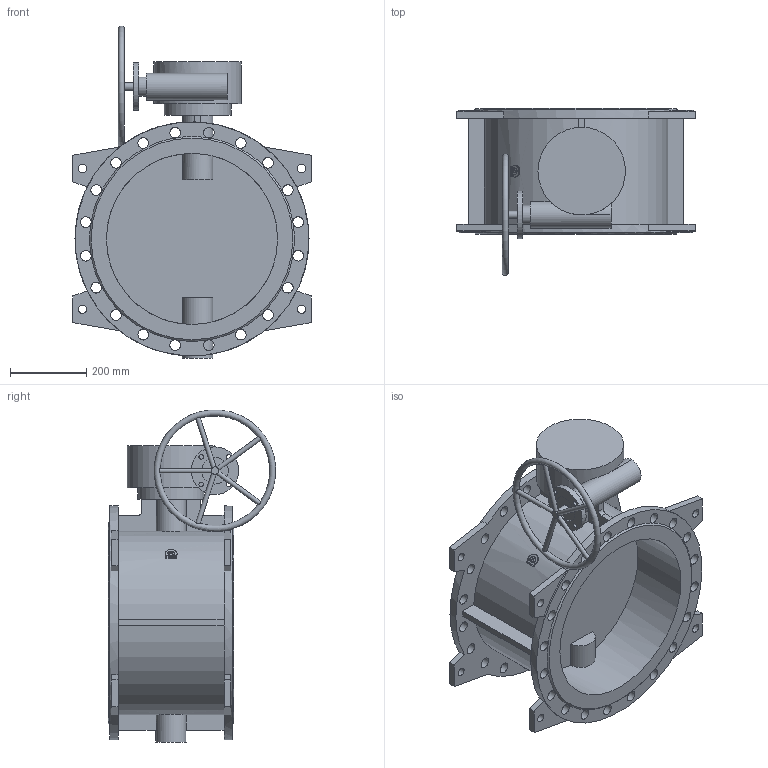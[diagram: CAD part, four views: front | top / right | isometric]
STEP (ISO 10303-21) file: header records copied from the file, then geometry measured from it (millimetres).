
FILE_DESCRIPTION(('STEP AP203'), '1');
FILE_NAME('Çàòâîð 023F.Z DN450 PN10_ìàõ', '', ('UNSPECIFIED'), ('UNSPECIFIED'), 'ASCON STEP Converter 1.6', 'ASCON Math Kernel', '');
FILE_SCHEMA(('CONFIG_CONTROL_DESIGN'));
Length unit declared in the file: millimetre
Bounding box: 626 x 439.52 x 872.48 mm (x, y, z)
Volume: 28685063.3 mm3; surface area: 2316692 mm2
Topology: 1 solids, 1 shells, 189 faces, 627 edges, 417 vertices
Faces by surface type: cylinder 96, plane 90, cone 2, torus 1
Full cylindrical faces by diameter (mm): 12 x9, 14 x4, 18 x4, 20 x2, 22 x8, 28 x40, 50 x1, 70 x2, 80 x1, 125 x1, 175 x1, 230 x1, 450 x2, 615 x1
Entity records: 13510 total; most frequent: CARTESIAN_POINT 6546, DIRECTION 1103, ORIENTED_EDGE 1086, EDGE_CURVE 543, AXIS2_PLACEMENT_3D 461, VERTEX_POINT 415, EDGE_LOOP 360, CIRCLE 272
